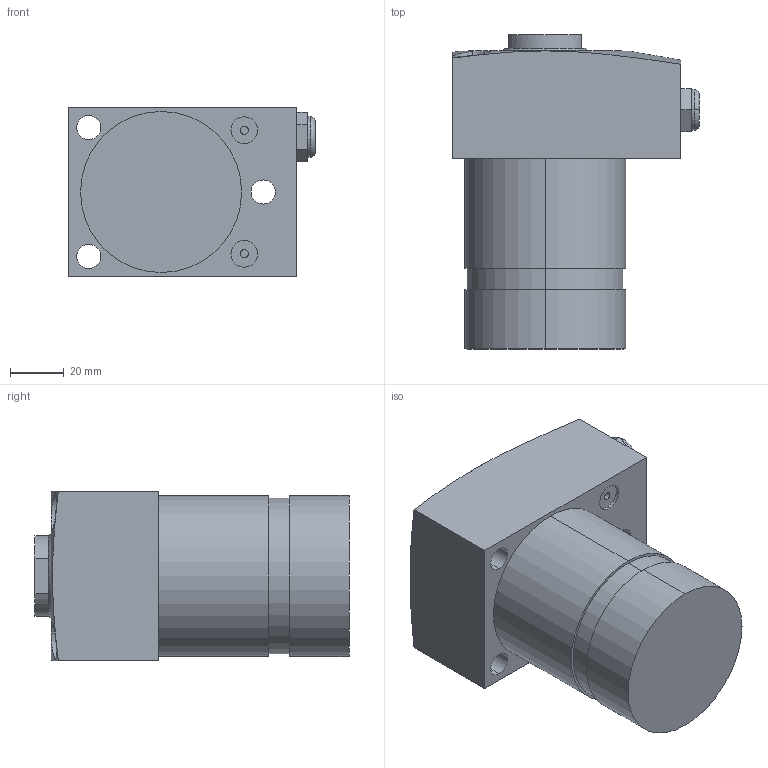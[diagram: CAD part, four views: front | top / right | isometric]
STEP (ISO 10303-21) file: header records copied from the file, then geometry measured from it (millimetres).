
FILE_DESCRIPTION (( 'STEP AP214' ), '1' );
FILE_NAME ('SP-FA32B.STEP', '2021-10-19T00:39:56', ( '' ), ( '' ), 'SwSTEP 2.0', 'SolidWorks 2016', '' );
FILE_SCHEMA (( 'AUTOMOTIVE_DESIGN' ));
Length unit declared in the file: millimetre
Products named in the file (1): SP-FA32B
Bounding box: 92 x 117 x 63 mm (x, y, z)
Volume: 400382 mm3; surface area: 42251.2 mm2
Topology: 1 solids, 2 shells, 84 faces, 193 edges, 120 vertices
Faces by surface type: cylinder 41, plane 31, cone 10, torus 2
Entity records: 2711 total; most frequent: CARTESIAN_POINT 673, DIRECTION 433, ORIENTED_EDGE 374, EDGE_CURVE 187, AXIS2_PLACEMENT_3D 176, VERTEX_POINT 120, EDGE_LOOP 103, CIRCLE 91
